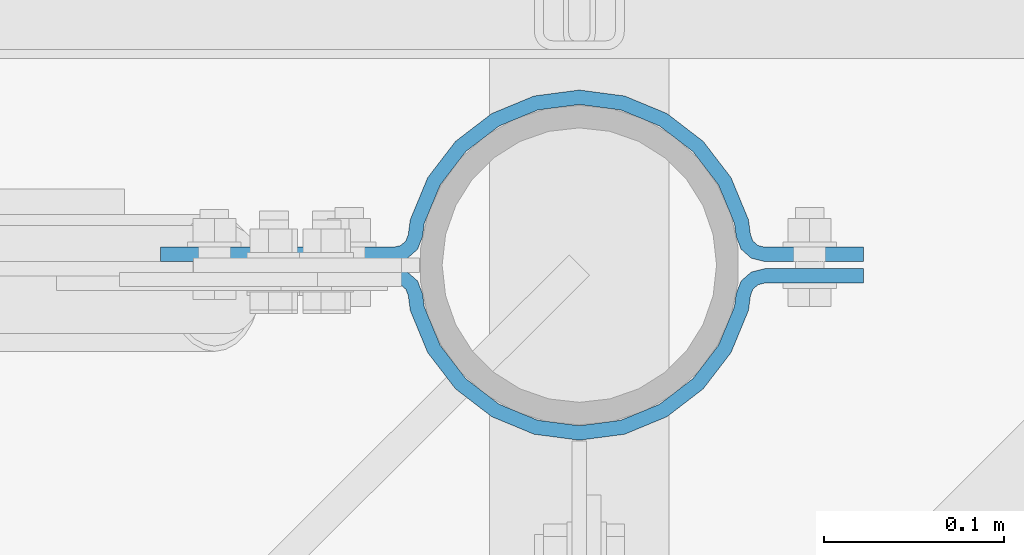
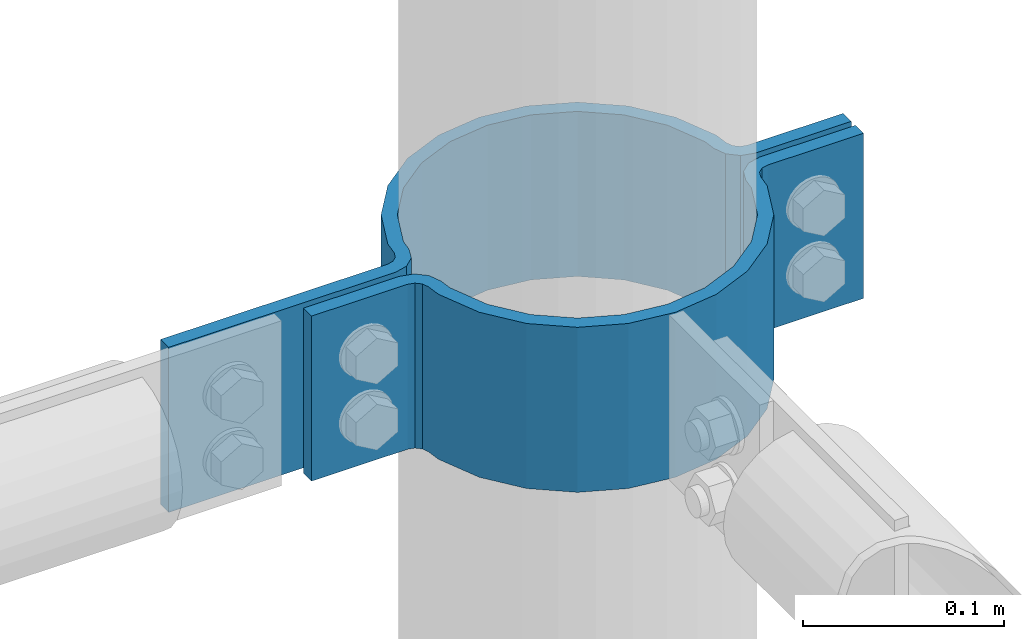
# One storey, part 131 of 132: 2 beams, 2 elements without a shape of their own.
"""IFC2X3 building model written with IfcOpenShell, lengths in millimetres."""

from ifc_helpers import new_model, si_unit, frame, origin_with_axes, place, context, subcontext, project, spatial, faceted_brep, material, type_object, element, aggregate, save


model = new_model("IFC2X3")

# Units and contexts
model_context = context("Model", 3, precision=1e-05, world=origin_with_axes())
body_context = subcontext(model_context, "Body", "Model", "MODEL_VIEW")
ifc_project = project(units=[si_unit("LENGTHUNIT", "METRE", prefix="MILLI"), si_unit("AREAUNIT", "SQUARE_METRE"), si_unit("VOLUMEUNIT", "CUBIC_METRE"), si_unit("MASSUNIT", "GRAM", prefix="KILO"), si_unit("TIMEUNIT", "SECOND"), si_unit("PLANEANGLEUNIT", "RADIAN"), si_unit("SOLIDANGLEUNIT", "STERADIAN"), si_unit("THERMODYNAMICTEMPERATUREUNIT", "DEGREE_CELSIUS"), si_unit("LUMINOUSINTENSITYUNIT", "LUMEN")], contexts=[model_context])

# Site, building, storey
site_placement = place(None, origin_with_axes())
site = spatial("IfcSite", under=ifc_project, at=site_placement, Name="Budowa", CompositionType="ELEMENT")
building_placement = place(site_placement, origin_with_axes())
building = spatial("IfcBuilding", under=site, at=building_placement, Name="Undefined", CompositionType="ELEMENT")
storey_placement = place(building_placement, origin_with_axes())
storey = spatial("IfcBuildingStorey", under=building, at=storey_placement, Name="Undefined", CompositionType="ELEMENT", Elevation=0.0)

# Assembly, beam
assembly_1_placement = place(storey_placement, origin_with_axes())
assembly_1 = element("IfcElementAssembly", 1, at=assembly_1_placement, inside=storey, Name="Steel Assembly", AssemblyPlace="NOTDEFINED", PredefinedType="RIGID_FRAME")
ifc_material = material(Name="STEEL/S235JR")
beam_type = type_object("IfcBeamType", Name="BL8*100", PredefinedType="NOTDEFINED")
beam_1_placement = place(assembly_1_placement, frame((14591.863305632, 24006.00000016, 10116.0003779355), z_axis=(0.0, 0.0, 1.0), x_axis=(1.0, 0.0, 0.0)))
beam_1 = element("IfcBeam", 2, at=beam_1_placement, type_object=beam_type, material=ifc_material, Name="BEAM", ObjectType="BL8*100", context=body_context, shape_type="Brep", body=[
    faceted_brep([(0.0, 4.0, -50.0), (0.0, 4.0, 50.0), (129.968378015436, 4.0, 50.0), (129.968378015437, 4.00000000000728, -50.0), (0.0, -4.0, 50.0), (0.0, -4.0, -50.0), (129.968378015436, -4.0, -50.0), (129.968378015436, -4.0, 50.0), (133.662366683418, 4.90391321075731, 50.0), (133.662366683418, 4.90391321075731, -50.0), (137.356355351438, -2.19217357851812, -50.0), (137.356355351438, -2.19217357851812, 50.0), (143.074810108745, 2.82277613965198, -50.0), (143.074810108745, 2.82277613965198, 50.0), (136.521594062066, 7.41138806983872, 50.0), (136.521594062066, 7.41138806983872, -50.0), (145.83149558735, 9.91157932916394, -50.0), (145.83149558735, 9.91157932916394, 50.0), (137.899936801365, 10.9557896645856, 50.0), (137.899936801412, 10.9557896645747, -50.0), (138.988842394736, 19.2268423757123, 50.0), (138.988842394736, 19.2268423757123, -50.0), (146.782928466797, 17.1384239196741, -50.0), (146.782928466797, 17.1384239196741, 50.0), (148.726032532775, 42.7345153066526, 50.0), (148.726032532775, 42.7345153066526, -50.0), (155.714019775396, 38.7000007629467, -50.0), (155.714019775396, 38.7000007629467, 50.0), (164.215673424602, 62.9210138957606, 50.0), (164.215673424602, 62.9210138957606, -50.0), (169.921340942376, 57.2153472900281, -50.0), (169.921340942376, 57.2153472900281, 50.0), (184.402176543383, 78.4106633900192, 50.0), (184.402176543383, 78.4106633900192, -50.0), (188.436691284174, 71.4226760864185, -50.0), (188.436691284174, 71.4226760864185, 50.0), (207.909857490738, 88.1478534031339, 50.0), (207.909857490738, 88.1478534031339, -50.0), (209.998275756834, 80.3537673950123, -50.0), (209.998275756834, 80.3537673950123, 50.0), (233.136687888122, 91.4690333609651, 50.0), (233.136687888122, 91.4690333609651, -50.0), (233.136688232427, 83.4000015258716, -50.0), (233.136688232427, 83.4000015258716, 50.0), (258.363533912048, 88.1478535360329, 50.0), (258.363533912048, 88.1478535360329, -50.0), (256.275115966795, 80.3537673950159, -50.0), (256.275115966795, 80.3537673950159, 50.0), (281.87121518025, 78.4106633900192, 50.0), (281.87121518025, 78.4106633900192, -50.0), (277.836700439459, 71.4226760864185, -50.0), (277.836700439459, 71.4226760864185, 50.0), (302.057719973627, 62.9210126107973, 50.0), (302.057719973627, 62.9210126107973, -50.0), (296.352050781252, 57.2153472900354, -50.0), (296.352050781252, 57.2153472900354, 50.0), (317.5473417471, 42.7345172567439, 50.0), (317.5473417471, 42.7345172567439, -50.0), (310.559356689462, 38.7000007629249, -50.0), (310.559356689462, 38.7000007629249, 50.0), (327.284563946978, 19.2268472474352, 50.0), (327.284563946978, 19.2268472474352, -50.0), (319.490478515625, 17.138423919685, -50.0), (319.490478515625, 17.138423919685, 50.0), (328.37347018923, 10.9557895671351, 50.0), (328.373470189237, 10.9557895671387, -50.0), (320.4419114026, 9.91157923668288, -50.0), (320.4419114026, 9.91157923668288, 50.0), (329.751812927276, 7.41138797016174, 50.0), (329.751812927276, 7.41138797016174, -50.0), (323.19859687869, 2.82277604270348, -50.0), (323.19859687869, 2.82277604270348, 50.0), (328.917051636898, -2.19217367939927, -50.0), (328.917051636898, -2.19217367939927, 50.0), (332.611040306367, 4.90391310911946, 50.0), (332.611040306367, 4.90391310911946, -50.0), (336.305028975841, -3.99999989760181, -50.0), (336.305028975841, -3.99999989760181, 50.0), (336.30502897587, 4.00000010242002, 50.0), (336.305028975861, 4.0000001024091, -50.0), (391.273406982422, 4.0000001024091, 50.0), (391.273406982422, 4.0000001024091, -50.0), (391.273406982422, -3.9999998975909, 50.0), (391.273406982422, -3.9999998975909, -50.0)], [[[0, 1, 2, 3]], [[4, 5, 6, 7]], [[5, 4, 1, 0]], [[3, 2, 8, 9]], [[7, 6, 10, 11]], [[10, 12, 13, 11]], [[8, 14, 15, 9]], [[12, 16, 17, 13]], [[14, 18, 19, 15]], [[19, 18, 20, 21]], [[17, 16, 22, 23]], [[21, 20, 24, 25]], [[23, 22, 26, 27]], [[25, 24, 28, 29]], [[27, 26, 30, 31]], [[29, 28, 32, 33]], [[31, 30, 34, 35]], [[33, 32, 36, 37]], [[35, 34, 38, 39]], [[37, 36, 40, 41]], [[39, 38, 42, 43]], [[41, 40, 44, 45]], [[43, 42, 46, 47]], [[45, 44, 48, 49]], [[47, 46, 50, 51]], [[49, 48, 52, 53]], [[51, 50, 54, 55]], [[53, 52, 56, 57]], [[55, 54, 58, 59]], [[57, 56, 60, 61]], [[59, 58, 62, 63]], [[61, 60, 64, 65]], [[63, 62, 66, 67]], [[65, 64, 68, 69]], [[67, 66, 70, 71]], [[70, 72, 73, 71]], [[68, 74, 75, 69]], [[72, 76, 77, 73]], [[74, 78, 79, 75]], [[79, 78, 80, 81]], [[78, 74, 68, 64, 60, 56, 52, 48, 44, 40, 36, 32, 28, 24, 20, 18, 14, 8, 2, 1, 4, 7, 11, 13, 17, 23, 27, 31, 35, 39, 43, 47, 51, 55, 59, 63, 67, 71, 73, 77, 82, 80]], [[77, 76, 83, 82]], [[76, 72, 70, 66, 62, 58, 54, 50, 46, 42, 38, 34, 30, 26, 22, 16, 12, 10, 6, 5, 0, 3, 9, 15, 19, 21, 25, 29, 33, 37, 41, 45, 49, 53, 57, 61, 65, 69, 75, 79, 81, 83]], [[82, 83, 81, 80]]]),
])
aggregate(assembly_1, [beam_1])

assembly_2_placement = place(storey_placement, origin_with_axes())
assembly_2 = element("IfcElementAssembly", 3, at=assembly_2_placement, inside=storey, Name="Steel Assembly", AssemblyPlace="NOTDEFINED", PredefinedType="RIGID_FRAME")
beam_2_placement = place(assembly_2_placement, frame((14666.863305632, 23993.9999999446, 10116.0003779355), z_axis=(0.0, 0.0, 1.0), x_axis=(1.0, 0.0, 0.0)))
beam_2 = element("IfcBeam", 4, at=beam_2_placement, type_object=beam_type, material=ifc_material, Name="BEAM", ObjectType="BL8*100", context=body_context, shape_type="Brep", body=[
    faceted_brep([(0.0, 4.0, -50.0), (0.0, 4.0, 50.0), (54.9683780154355, 4.0, 50.0), (54.9683780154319, 4.00000000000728, -50.0), (0.0, -4.0, 50.0), (0.0, -4.0, -50.0), (54.9683780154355, -4.0, -50.0), (54.9683780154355, -4.0, 50.0), (62.3563553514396, 2.19217357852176, 50.0), (62.3563553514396, 2.19217357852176, -50.0), (58.6623666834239, -4.90391321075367, -50.0), (58.6623666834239, -4.90391321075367, 50.0), (61.521594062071, -7.41138806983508, -50.0), (61.521594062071, -7.41138806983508, 50.0), (68.0748101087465, -2.82277613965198, 50.0), (68.0748101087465, -2.82277613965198, -50.0), (62.8999368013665, -10.955789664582, -50.0), (62.8999368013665, -10.955789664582, 50.0), (70.831495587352, -9.91157932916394, 50.0), (70.8314955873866, -9.91157932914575, -50.0), (71.7829284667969, -17.1384239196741, 50.0), (71.7829284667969, -17.1384239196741, -50.0), (63.9888423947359, -19.2268423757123, -50.0), (63.9888423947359, -19.2268423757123, 50.0), (80.7140197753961, -38.7000007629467, 50.0), (80.7140197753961, -38.7000007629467, -50.0), (73.7260325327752, -42.7345153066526, -50.0), (73.7260325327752, -42.7345153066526, 50.0), (94.9213409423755, -57.2153472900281, 50.0), (94.9213409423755, -57.2153472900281, -50.0), (89.2156734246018, -62.9210138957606, -50.0), (89.2156734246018, -62.9210138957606, 50.0), (113.436691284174, -71.4226760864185, 50.0), (113.436691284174, -71.4226760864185, -50.0), (109.402176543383, -78.4106633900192, -50.0), (109.402176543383, -78.4106633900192, 50.0), (134.998275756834, -80.3537673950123, 50.0), (134.998275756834, -80.3537673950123, -50.0), (132.909857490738, -88.1478534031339, -50.0), (132.909857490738, -88.1478534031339, 50.0), (158.136688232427, -83.4000015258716, 50.0), (158.136688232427, -83.4000015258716, -50.0), (158.136687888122, -91.4690333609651, -50.0), (158.136687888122, -91.4690333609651, 50.0), (181.275115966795, -80.3537673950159, 50.0), (181.275115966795, -80.3537673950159, -50.0), (183.363533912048, -88.1478535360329, -50.0), (183.363533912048, -88.1478535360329, 50.0), (202.836700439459, -71.4226760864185, 50.0), (202.836700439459, -71.4226760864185, -50.0), (206.87121518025, -78.4106633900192, -50.0), (206.87121518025, -78.4106633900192, 50.0), (221.352050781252, -57.2153472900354, 50.0), (221.352050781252, -57.2153472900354, -50.0), (227.057719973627, -62.9210126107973, -50.0), (227.057719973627, -62.9210126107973, 50.0), (235.559356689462, -38.7000007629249, 50.0), (235.559356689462, -38.7000007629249, -50.0), (242.5473417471, -42.7345172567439, -50.0), (242.5473417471, -42.7345172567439, 50.0), (244.490478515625, -17.138423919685, 50.0), (244.490478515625, -17.138423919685, -50.0), (252.284563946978, -19.2268472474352, -50.0), (252.284563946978, -19.2268472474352, 50.0), (245.4419114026, -9.91157923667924, 50.0), (245.441911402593, -9.91157923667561, -50.0), (253.37347018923, -10.9557895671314, -50.0), (253.37347018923, -10.9557895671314, 50.0), (248.198596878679, -2.82277604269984, 50.0), (248.198596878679, -2.82277604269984, -50.0), (254.75181292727, -7.41138797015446, -50.0), (254.75181292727, -7.41138797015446, 50.0), (257.611040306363, -4.90391310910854, -50.0), (257.611040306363, -4.90391310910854, 50.0), (253.917051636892, 2.19217367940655, 50.0), (253.917051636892, 2.19217367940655, -50.0), (261.305028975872, -4.00000010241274, -50.0), (261.305028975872, -4.00000010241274, 50.0), (261.305028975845, 3.99999989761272, 50.0), (261.305028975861, 3.9999998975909, -50.0), (316.273406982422, 3.9999998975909, 50.0), (316.273406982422, 3.9999998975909, -50.0), (316.273406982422, -4.0000001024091, 50.0), (316.273406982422, -4.0000001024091, -50.0)], [[[0, 1, 2, 3]], [[4, 5, 6, 7]], [[5, 4, 1, 0]], [[3, 2, 8, 9]], [[7, 6, 10, 11]], [[10, 12, 13, 11]], [[8, 14, 15, 9]], [[12, 16, 17, 13]], [[14, 18, 19, 15]], [[19, 18, 20, 21]], [[17, 16, 22, 23]], [[21, 20, 24, 25]], [[23, 22, 26, 27]], [[25, 24, 28, 29]], [[27, 26, 30, 31]], [[29, 28, 32, 33]], [[31, 30, 34, 35]], [[33, 32, 36, 37]], [[35, 34, 38, 39]], [[37, 36, 40, 41]], [[39, 38, 42, 43]], [[41, 40, 44, 45]], [[43, 42, 46, 47]], [[45, 44, 48, 49]], [[47, 46, 50, 51]], [[49, 48, 52, 53]], [[51, 50, 54, 55]], [[53, 52, 56, 57]], [[55, 54, 58, 59]], [[57, 56, 60, 61]], [[59, 58, 62, 63]], [[61, 60, 64, 65]], [[63, 62, 66, 67]], [[65, 64, 68, 69]], [[67, 66, 70, 71]], [[70, 72, 73, 71]], [[68, 74, 75, 69]], [[72, 76, 77, 73]], [[74, 78, 79, 75]], [[79, 78, 80, 81]], [[78, 74, 68, 64, 60, 56, 52, 48, 44, 40, 36, 32, 28, 24, 20, 18, 14, 8, 2, 1, 4, 7, 11, 13, 17, 23, 27, 31, 35, 39, 43, 47, 51, 55, 59, 63, 67, 71, 73, 77, 82, 80]], [[77, 76, 83, 82]], [[76, 72, 70, 66, 62, 58, 54, 50, 46, 42, 38, 34, 30, 26, 22, 16, 12, 10, 6, 5, 0, 3, 9, 15, 19, 21, 25, 29, 33, 37, 41, 45, 49, 53, 57, 61, 65, 69, 75, 79, 81, 83]], [[82, 83, 81, 80]]]),
])
aggregate(assembly_2, [beam_2])

save(model, "model.ifc")
